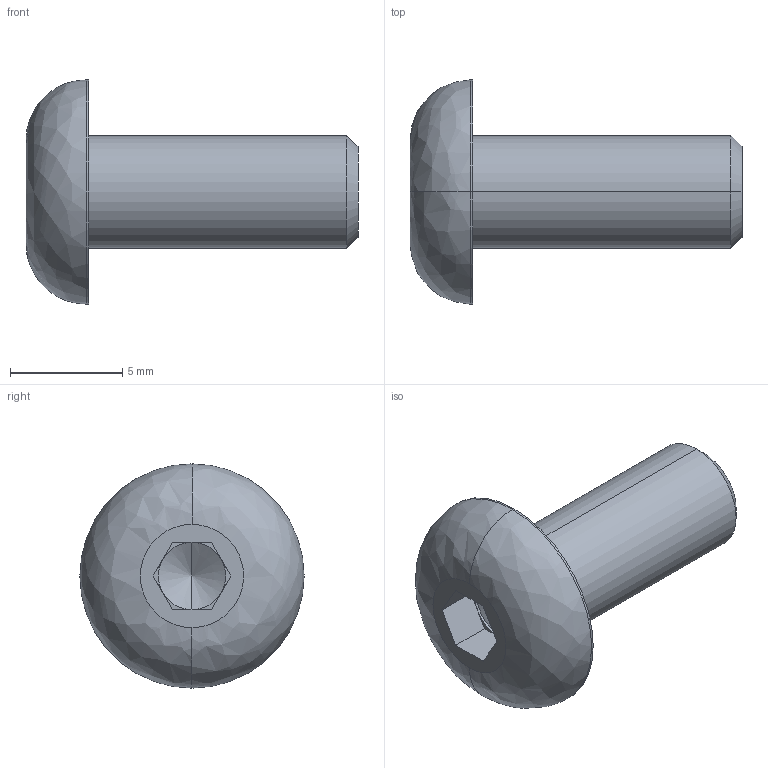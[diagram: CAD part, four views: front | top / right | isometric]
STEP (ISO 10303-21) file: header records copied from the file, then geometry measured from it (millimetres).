
FILE_DESCRIPTION (( 'STEP AP214' ), '1' );
FILE_NAME ('ISO7380_5x12.STEP', '2016-05-18T14:46:07', ( '' ), ( '' ), 'SwSTEP 2.0', 'SolidWorks 2014', '' );
FILE_SCHEMA (( 'AUTOMOTIVE_DESIGN' ));
Length unit declared in the file: millimetre
Products named in the file (1): ISO7380_5x12
Bounding box: 14.8 x 10 x 10 mm (x, y, z)
Volume: 393.5 mm3; surface area: 410.1 mm2
Topology: 1 solids, 1 shells, 27 faces, 59 edges, 34 vertices
Faces by surface type: plane 15, cylinder 6, cone 4, bspline 2
Entity records: 771 total; most frequent: CARTESIAN_POINT 158, DIRECTION 126, ORIENTED_EDGE 114, EDGE_CURVE 57, AXIS2_PLACEMENT_3D 46, VECTOR 34, LINE 34, VERTEX_POINT 34
